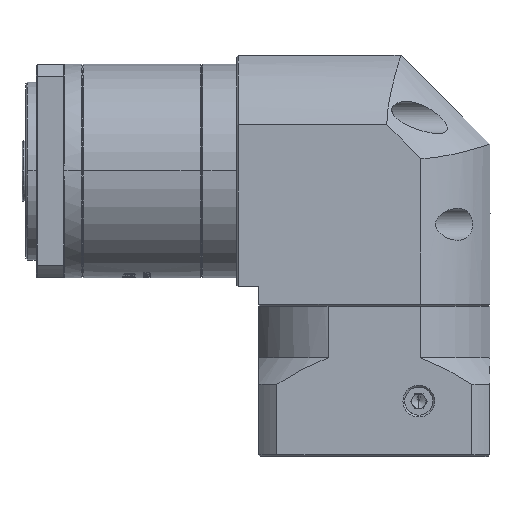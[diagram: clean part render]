
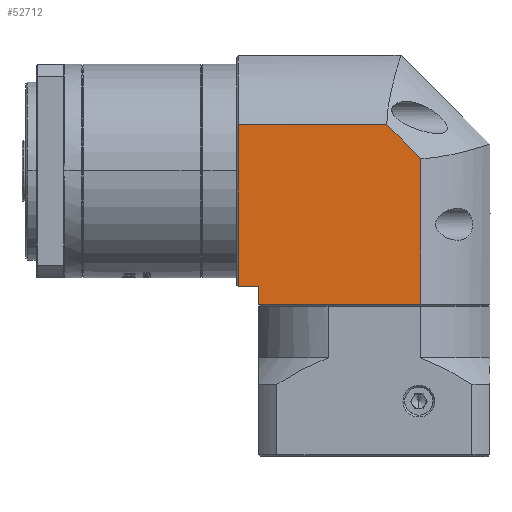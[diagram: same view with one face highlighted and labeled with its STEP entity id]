
A CAD part, top view. The second image highlights one B-rep face of the part: STEP entity #52712.
In plain terms, the highlighted planar face has unit normal (0, 0, 1).
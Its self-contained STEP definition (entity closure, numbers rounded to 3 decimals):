
#1715 = CARTESIAN_POINT ( 'NONE',  ( -347.853, 326.049, -77.88 ) ) ;
#1964 = PLANE ( 'NONE',  #61809 ) ;
#7925 = ORIENTED_EDGE ( 'NONE', *, *, #49274, .T. ) ;
#9041 = VERTEX_POINT ( 'NONE', #107727 ) ;
#13823 = ORIENTED_EDGE ( 'NONE', *, *, #86990, .T. ) ;
#20223 = VERTEX_POINT ( 'NONE', #87708 ) ;
#24429 = LINE ( 'NONE', #1715, #115564 ) ;
#27736 = DIRECTION ( 'NONE',  ( 1., 0., 0. ) ) ;
#28777 = LINE ( 'NONE', #98958, #91928 ) ;
#31186 = ORIENTED_EDGE ( 'NONE', *, *, #137698, .T. ) ;
#31459 = CARTESIAN_POINT ( 'NONE',  ( 22.949, -15.746, -77.88 ) ) ;
#37359 = CARTESIAN_POINT ( 'NONE',  ( 22.949, -85.746, -77.88 ) ) ;
#39655 = ORIENTED_EDGE ( 'NONE', *, *, #108050, .T. ) ;
#41823 = CARTESIAN_POINT ( 'NONE',  ( -32.541, -85.746, -77.88 ) ) ;
#43311 = CARTESIAN_POINT ( 'NONE',  ( 13.451, -35.255, -77.88 ) ) ;
#49274 = EDGE_CURVE ( 'NONE', #107465, #9041, #144705, .T. ) ;
#49415 = ORIENTED_EDGE ( 'NONE', *, *, #66020, .T. ) ;
#49922 = CARTESIAN_POINT ( 'NONE',  ( -32.541, -15.746, -77.88 ) ) ;
#52712 = ADVANCED_FACE ( 'NONE', ( #150065 ), #1964, .F. ) ;
#57698 = DIRECTION ( 'NONE',  ( 0., -1., 0. ) ) ;
#61801 = DIRECTION ( 'NONE',  ( -1., 0., 0. ) ) ;
#61809 = AXIS2_PLACEMENT_3D ( 'NONE', #49922, #133025, #61801 ) ;
#62171 = ORIENTED_EDGE ( 'NONE', *, *, #88374, .T. ) ;
#65616 = EDGE_CURVE ( 'NONE', #96195, #120367, #90634, .T. ) ;
#66020 = EDGE_CURVE ( 'NONE', #20223, #96195, #112798, .T. ) ;
#72249 = CARTESIAN_POINT ( 'NONE',  ( -22.541, -80.746, -77.88 ) ) ;
#72294 = DIRECTION ( 'NONE',  ( -1., 0., 0. ) ) ;
#72308 = VERTEX_POINT ( 'NONE', #149500 ) ;
#73392 = CARTESIAN_POINT ( 'NONE',  ( -22.541, -15.746, -77.88 ) ) ;
#74206 = LINE ( 'NONE', #73392, #133723 ) ;
#79704 = VERTEX_POINT ( 'NONE', #72249 ) ;
#81536 = VECTOR ( 'NONE', #72294, 1000. ) ;
#81637 = ORIENTED_EDGE ( 'NONE', *, *, #65616, .T. ) ;
#84809 = DIRECTION ( 'NONE',  ( 0., -1., 0. ) ) ;
#86990 = EDGE_CURVE ( 'NONE', #72308, #79704, #28777, .T. ) ;
#87708 = CARTESIAN_POINT ( 'NONE',  ( -22.541, -85.746, -77.88 ) ) ;
#88374 = EDGE_CURVE ( 'NONE', #120367, #107465, #24429, .T. ) ;
#89537 = DIRECTION ( 'NONE',  ( 1., 0., 0. ) ) ;
#90634 = LINE ( 'NONE', #31459, #150029 ) ;
#91928 = VECTOR ( 'NONE', #27736, 1000. ) ;
#94549 = VECTOR ( 'NONE', #57698, 1000. ) ;
#96195 = VERTEX_POINT ( 'NONE', #37359 ) ;
#98958 = CARTESIAN_POINT ( 'NONE',  ( -32.541, -80.746, -77.88 ) ) ;
#102590 = EDGE_LOOP ( 'NONE', ( #81637, #62171, #7925, #39655, #13823, #31186, #49415 ) ) ;
#107465 = VERTEX_POINT ( 'NONE', #43311 ) ;
#107727 = CARTESIAN_POINT ( 'NONE',  ( -28.241, -35.255, -77.88 ) ) ;
#108050 = EDGE_CURVE ( 'NONE', #9041, #72308, #126202, .T. ) ;
#112798 = LINE ( 'NONE', #41823, #140543 ) ;
#115564 = VECTOR ( 'NONE', #143545, 1000. ) ;
#120367 = VERTEX_POINT ( 'NONE', #126573 ) ;
#126202 = LINE ( 'NONE', #128345, #94549 ) ;
#126554 = DIRECTION ( 'NONE',  ( 0., 1., 0. ) ) ;
#126573 = CARTESIAN_POINT ( 'NONE',  ( 22.949, -44.753, -77.88 ) ) ;
#128345 = CARTESIAN_POINT ( 'NONE',  ( -28.241, -80.746, -77.88 ) ) ;
#133025 = DIRECTION ( 'NONE',  ( 0., 0., -1. ) ) ;
#133723 = VECTOR ( 'NONE', #84809, 1000. ) ;
#137698 = EDGE_CURVE ( 'NONE', #79704, #20223, #74206, .T. ) ;
#140543 = VECTOR ( 'NONE', #89537, 1000. ) ;
#143396 = CARTESIAN_POINT ( 'NONE',  ( 42.459, -35.255, -77.88 ) ) ;
#143545 = DIRECTION ( 'NONE',  ( -0.707, 0.707, 0. ) ) ;
#144705 = LINE ( 'NONE', #143396, #81536 ) ;
#149500 = CARTESIAN_POINT ( 'NONE',  ( -28.241, -80.746, -77.88 ) ) ;
#150029 = VECTOR ( 'NONE', #126554, 1000. ) ;
#150065 = FACE_OUTER_BOUND ( 'NONE', #102590, .T. ) ;
